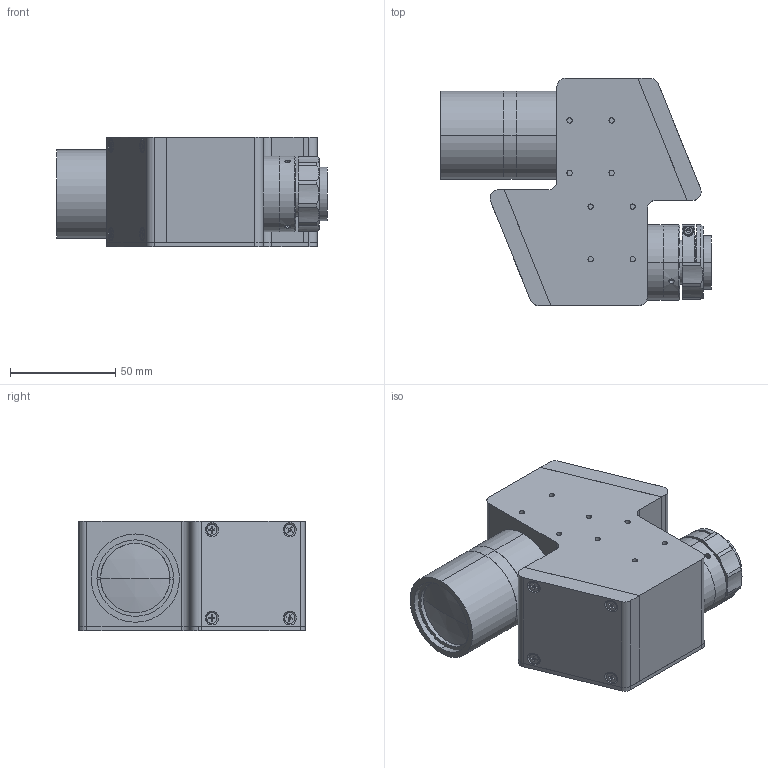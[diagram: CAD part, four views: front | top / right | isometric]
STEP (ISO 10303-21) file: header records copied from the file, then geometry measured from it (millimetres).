
FILE_DESCRIPTION (( 'STEP AP203' ), '1' );
FILE_NAME ('XF-MH09X233.STEP', '2020-08-24T07:15:21', ( 'canrill-02' ), ( '' ), 'SwSTEP 2.0', 'SolidWorks 2014', '' );
FILE_SCHEMA (( 'CONFIG_CONTROL_DESIGN' ));
Length unit declared in the file: millimetre
Products named in the file (1): XF-MH09X233
Bounding box: 128.88 x 108 x 52 mm (x, y, z)
Surface area: 59127.8 mm2 (no closed solid volume)
Topology: 0 solids, 30 shells, 418 faces, 1313 edges, 909 vertices
Faces by surface type: plane 216, cylinder 157, cone 41, sphere 2, torus 2
Entity records: 14927 total; most frequent: CARTESIAN_POINT 2960, DIRECTION 2590, ORIENTED_EDGE 2209, EDGE_CURVE 1311, VERTEX_POINT 909, AXIS2_PLACEMENT_3D 883, LINE 824, VECTOR 824
